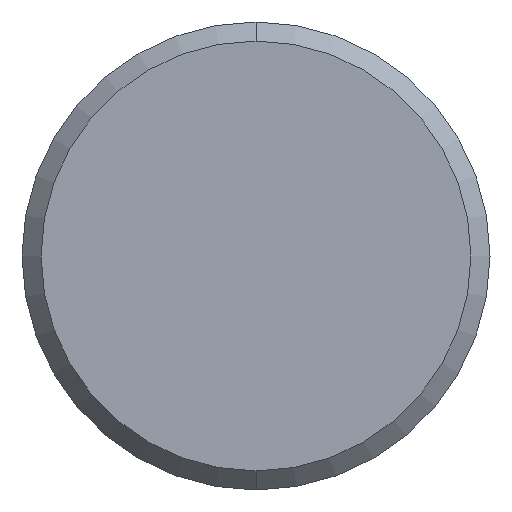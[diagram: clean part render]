
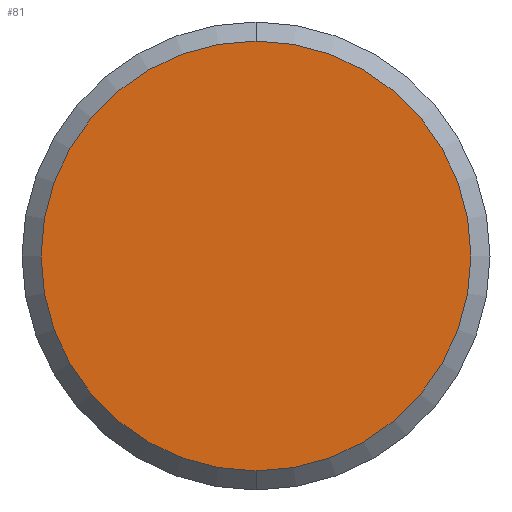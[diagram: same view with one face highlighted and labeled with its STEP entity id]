
A CAD part, left-side view. The second image highlights one B-rep face of the part: STEP entity #81.
In plain terms, the highlighted planar face has unit normal (-1, 0, 0).
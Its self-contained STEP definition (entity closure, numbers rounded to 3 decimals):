
#26 = CIRCLE ( 'NONE', #411, 22.5 ) ;
#35 = CIRCLE ( 'NONE', #541, 22.5 ) ;
#49 = DIRECTION ( 'NONE',  ( -1., 0., 0. ) ) ;
#52 = DIRECTION ( 'NONE',  ( 0., 0., -1. ) ) ;
#77 = EDGE_CURVE ( 'NONE', #369, #207, #26, .T. ) ;
#81 = ADVANCED_FACE ( 'NONE', ( #247 ), #363, .F. ) ;
#95 = DIRECTION ( 'NONE',  ( 1., 0., 0. ) ) ;
#125 = EDGE_CURVE ( 'NONE', #207, #369, #35, .T. ) ;
#127 = DIRECTION ( 'NONE',  ( -1., 0., 0. ) ) ;
#188 = ORIENTED_EDGE ( 'NONE', *, *, #125, .T. ) ;
#207 = VERTEX_POINT ( 'NONE', #477 ) ;
#225 = CARTESIAN_POINT ( 'NONE',  ( 0., 0., -22.5 ) ) ;
#247 = FACE_OUTER_BOUND ( 'NONE', #312, .T. ) ;
#283 = ORIENTED_EDGE ( 'NONE', *, *, #77, .T. ) ;
#312 = EDGE_LOOP ( 'NONE', ( #283, #188 ) ) ;
#314 = CARTESIAN_POINT ( 'NONE',  ( 0., 0., 0. ) ) ;
#362 = DIRECTION ( 'NONE',  ( 0., 0., -1. ) ) ;
#363 = PLANE ( 'NONE',  #506 ) ;
#369 = VERTEX_POINT ( 'NONE', #225 ) ;
#411 = AXIS2_PLACEMENT_3D ( 'NONE', #420, #127, #52 ) ;
#414 = DIRECTION ( 'NONE',  ( 0., 0., -1. ) ) ;
#417 = CARTESIAN_POINT ( 'NONE',  ( 0., 0., 0. ) ) ;
#420 = CARTESIAN_POINT ( 'NONE',  ( 0., 0., 0. ) ) ;
#477 = CARTESIAN_POINT ( 'NONE',  ( 0., 0., 22.5 ) ) ;
#506 = AXIS2_PLACEMENT_3D ( 'NONE', #417, #95, #414 ) ;
#541 = AXIS2_PLACEMENT_3D ( 'NONE', #314, #49, #362 ) ;
